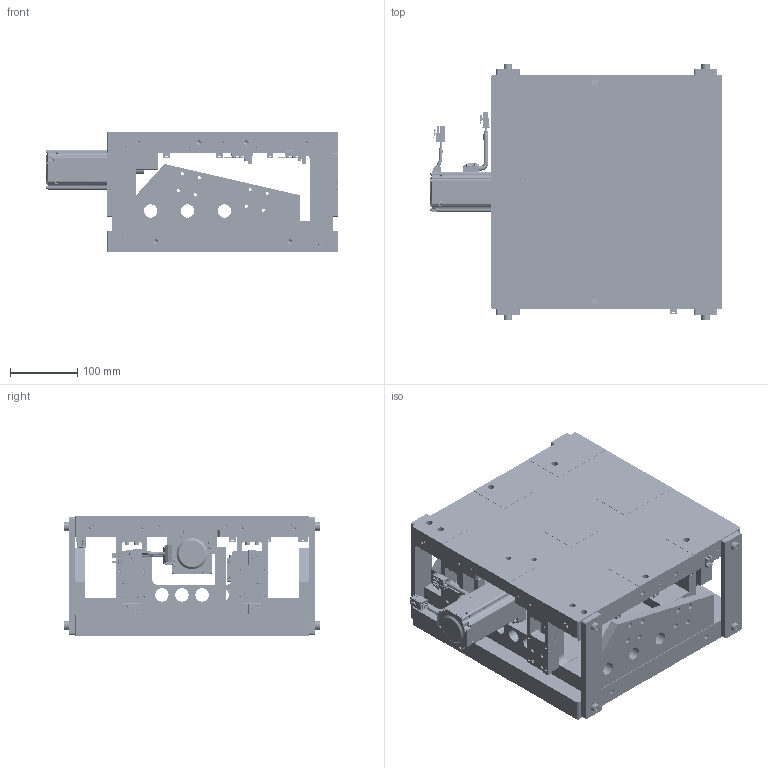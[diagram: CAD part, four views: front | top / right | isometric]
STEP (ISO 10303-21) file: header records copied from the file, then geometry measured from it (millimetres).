
FILE_DESCRIPTION (( 'STEP AP214' ), '1' );
FILE_NAME ('TZA35016E-L5-P40.STEP', '2025-01-06T11:08:42', ( '' ), ( '' ), 'SwSTEP 2.0', 'SolidWorks 2020', '' );
FILE_SCHEMA (( 'AUTOMOTIVE_DESIGN' ));
Length unit declared in the file: millimetre
Products named in the file (1): TZA35016E-L5-P40
Bounding box: 436.8 x 382.6 x 179 mm (x, y, z)
Volume: 9995969.9 mm3; surface area: 1299765.1 mm2
Topology: 217 solids, 217 shells, 8963 faces, 21825 edges, 13527 vertices
Faces by surface type: plane 4115, cylinder 2720, cone 1032, torus 786, bspline 284, sphere 26
Entity records: 367419 total; most frequent: CARTESIAN_POINT 54935, DIRECTION 45046, ORIENTED_EDGE 42478, EDGE_CURVE 21239, AXIS2_PLACEMENT_3D 16090, VERTEX_POINT 13527, VECTOR 12866, LINE 12866
